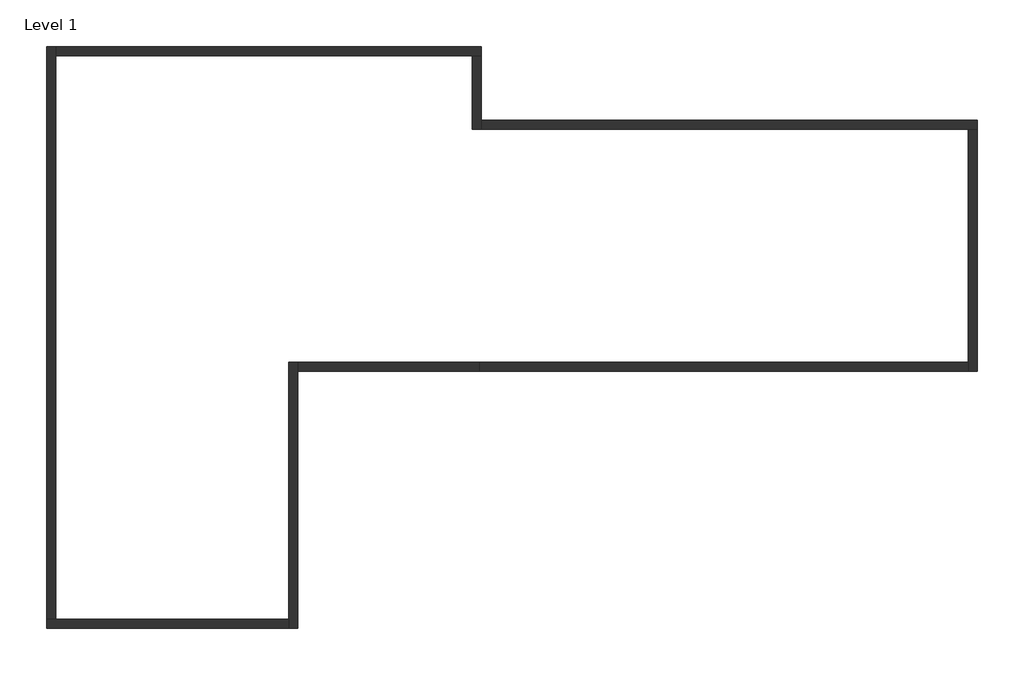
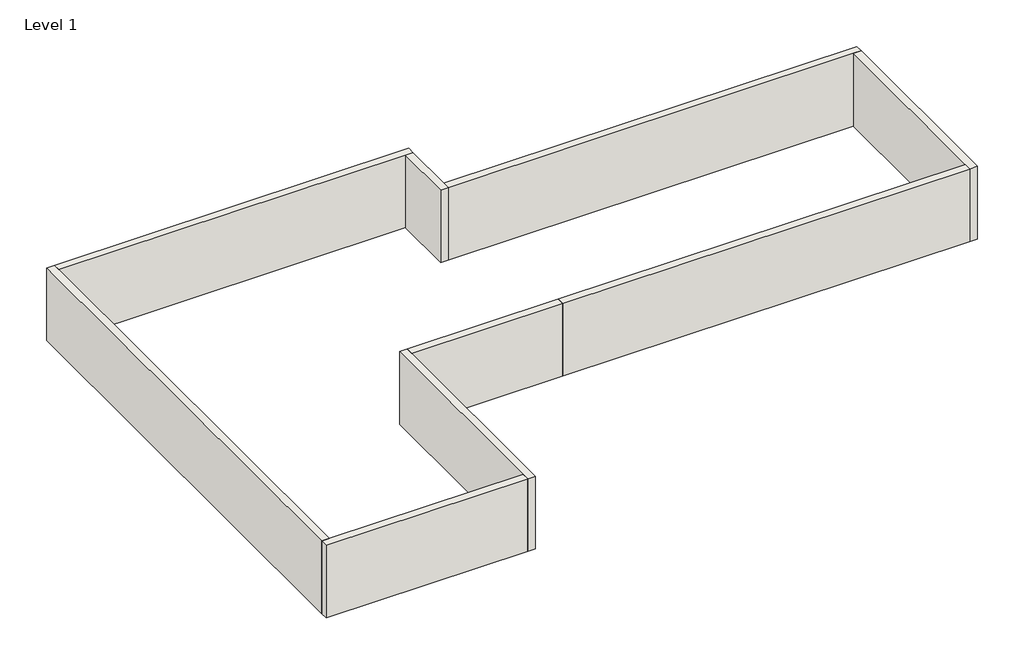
# One storey: 9 walls.
"""IFC4 building model written with IfcOpenShell, lengths in millimetres."""

import ifcopenshell
import ifcopenshell.guid

model = None  # the IFC model being written
_history = None  # IfcOwnerHistory: only IFC2X3 demands one
_inside = {}  # id of a spatial element -> (the spatial element, [elements in it])
_under = {}  # id of a project, library or spatial element -> (it, [spatial elements below it])
_declared = {}  # id of a project -> (the project, [libraries it declares])
_typed = {}  # id of a type object -> (the type object, [elements of that type])
_made_of = {}  # id of a material, layer set ... -> (it, [elements and type objects made of it])


def new_model(schema):
    """Start an empty IFC model of exactly this schema.

    Asked for "IFC4X3", IfcOpenShell would pick the latest addendum, in which some entities
    have other attributes; the version numbers below select the first issue.
    IFC2X3 requires an IfcOwnerHistory on every rooted entity: one is made here for all.
    """
    global model, _history
    if schema == "IFC4X3":
        model = ifcopenshell.file(schema_version=(4, 3, 0, 0))
    else:
        model = ifcopenshell.file(schema=schema)
    _inside.clear()
    _under.clear()
    _declared.clear()
    _typed.clear()
    _made_of.clear()
    _history = None
    if model.schema == "IFC2X3":
        org = make("IfcOrganization", Name="unknown")
        user = make(
            "IfcPersonAndOrganization",
            ThePerson=make("IfcPerson", FamilyName="unknown"),
            TheOrganization=org,
        )
        app = make(
            "IfcApplication",
            ApplicationDeveloper=org,
            Version="unknown",
            ApplicationFullName="unknown",
            ApplicationIdentifier="unknown",
        )
        _history = make(
            "IfcOwnerHistory",
            OwningUser=user,
            OwningApplication=app,
            ChangeAction="ADDED",
            CreationDate=0,
        )
    return model


def make(cls, **values):
    """One entity of the class cls with the attributes given. An attribute that is None is left unset."""
    return model.create_entity(
        cls, **{name: value for name, value in values.items() if value is not None}
    )


def rooted(cls, **values):
    """An entity with a GlobalId (a new one), such as an element, a storey or a relation."""
    return make(cls, GlobalId=ifcopenshell.guid.new(), OwnerHistory=_history, **values)


def si_unit(unit_type, name, prefix=None):
    """IfcSIUnit, for example si_unit("LENGTHUNIT", "METRE", prefix="MILLI")."""
    return make("IfcSIUnit", UnitType=unit_type, Prefix=prefix, Name=name)


def assignment(units):
    """IfcUnitAssignment: the units of a project."""
    return None if units is None else make("IfcUnitAssignment", Units=units)


def point(xyz):
    """IfcCartesianPoint."""
    return None if xyz is None else make("IfcCartesianPoint", Coordinates=xyz)


def direction(xyz):
    """IfcDirection."""
    return None if xyz is None else make("IfcDirection", DirectionRatios=xyz)


def frame(location, z_axis=None, x_axis=None):
    """IfcAxis2Placement3D, a coordinate frame: its origin and axes. An axis left out is left unset."""
    return make(
        "IfcAxis2Placement3D",
        Location=point(location),
        Axis=direction(z_axis),
        RefDirection=direction(x_axis),
    )


def origin():
    """The frame at (0, 0, 0) with its axes left unset."""
    return frame((0.0, 0.0, 0.0))


def origin_with_axes():
    """The frame at (0, 0, 0) with the z axis (0, 0, 1) and the x axis (1, 0, 0) written out."""
    return frame((0.0, 0.0, 0.0), z_axis=(0.0, 0.0, 1.0), x_axis=(1.0, 0.0, 0.0))


def place(relative_to, where):
    """IfcLocalPlacement: puts the frame where relative to a parent placement (None: the world)."""
    return make(
        "IfcLocalPlacement", PlacementRelTo=relative_to, RelativePlacement=where
    )


def context(
    kind, dimensions, precision=None, world=None, true_north=None, identifier=None
):
    """IfcGeometricRepresentationContext, for example the 3D "Model" context."""
    return make(
        "IfcGeometricRepresentationContext",
        ContextIdentifier=identifier,
        ContextType=kind,
        CoordinateSpaceDimension=dimensions,
        Precision=precision,
        WorldCoordinateSystem=world,
        TrueNorth=true_north,
    )


def project(units=None, contexts=None):
    """IfcProject with its units and contexts."""
    return rooted(
        "IfcProject",
        Name="project",
        RepresentationContexts=contexts,
        UnitsInContext=assignment(units),
    )


def spatial(cls, under=None, at=None, **own):
    """A site, building, storey or space (cls), placed at a placement, below another one or the project."""
    s = rooted(cls, ObjectPlacement=at, **own)
    if under is not None:
        _under.setdefault(under.id(), (under, []))[1].append(s)
    return s


def polyline(points):
    """IfcPolyline through the points."""
    return make("IfcPolyline", Points=[point(p) for p in points])


def outline(outer, holes=None, kind="AREA"):
    """IfcArbitraryClosedProfileDef: a profile drawn as a closed curve; with holes, ...WithVoids."""
    if holes is None:
        return make("IfcArbitraryClosedProfileDef", ProfileType=kind, OuterCurve=outer)
    return make(
        "IfcArbitraryProfileDefWithVoids",
        ProfileType=kind,
        OuterCurve=outer,
        InnerCurves=holes,
    )


def extrude(swept, where, along, depth):
    """IfcExtrudedAreaSolid: the profile swept, set in the frame where, extruded along a direction by depth."""
    return make(
        "IfcExtrudedAreaSolid",
        SweptArea=swept,
        Position=where,
        ExtrudedDirection=direction(along),
        Depth=depth,
    )


def faces_of(points, faces, orient=None, outer=None):
    """IfcFace entities. A face is a list of loops; a loop is a list of indices into points, from 0.

    orient and outer hold one flag for each loop. By default every Orientation is true, the
    first loop of a face is its IfcFaceOuterBound and the others are IfcFaceBound.
    """
    made = []
    for i, loops in enumerate(faces):
        bounds = []
        for j, loop in enumerate(loops):
            is_outer = j == 0 if outer is None else outer[i][j]
            bounds.append(
                make(
                    "IfcFaceOuterBound" if is_outer else "IfcFaceBound",
                    Bound=make("IfcPolyLoop", Polygon=[points[k] for k in loop]),
                    Orientation=True if orient is None else orient[i][j],
                )
            )
        made.append(make("IfcFace", Bounds=bounds))
    return made


def faceted_brep(points, faces, orient=None, outer=None, voids=None):
    """IfcFacetedBrep: a solid bounded by flat faces; with voids (closed shells), ...WithVoids."""
    shared = [point(p) for p in points]
    hull = make("IfcClosedShell", CfsFaces=faces_of(shared, faces, orient, outer))
    if voids is None:
        return make("IfcFacetedBrep", Outer=hull)
    return make(
        "IfcFacetedBrepWithVoids",
        Outer=hull,
        Voids=[
            make(cls, CfsFaces=faces_of(shared, fs, o, b)) for cls, fs, o, b in voids
        ],
    )


def shape(context_of_items, identifier, shape_type, items):
    """IfcShapeRepresentation: the items that make up one representation, for example the "Body"."""
    return make(
        "IfcShapeRepresentation",
        ContextOfItems=context_of_items,
        RepresentationIdentifier=identifier,
        RepresentationType=shape_type,
        Items=items,
    )


def made_of(thing, what):
    """Note that an element or type object is made of a material, layer set ...; save() writes the relation."""
    if what is not None:
        _made_of.setdefault(what.id(), (what, []))[1].append(thing)
    return thing


def element(
    cls,
    number,
    at=None,
    inside=None,
    cuts=None,
    type_object=None,
    material=None,
    context=None,
    identifier="Body",
    shape_type=None,
    held_by="IfcProductDefinitionShape",
    body=None,
    shapes=None,
    **own,
):
    """One element of the class cls, such as IfcWall. Its Tag is "e" and its number.

    at: its placement. inside: the storey or other place that contains it. cuts: it is an
    opening in that element (IfcRelVoidsElement). A single representation is given by context,
    identifier, shape_type and body (its items); several are given by shapes. held_by: the class
    of the entity that holds the representations. save() writes the other relations.
    """
    e = rooted(cls, Tag="e%d" % number, ObjectPlacement=at, **own)
    if body is not None:
        shapes = [shape(context, identifier, shape_type, body)]
    if shapes is not None:
        e.Representation = make(held_by, Representations=shapes)
    if inside is not None:
        _inside.setdefault(inside.id(), (inside, []))[1].append(e)
    if cuts is not None:
        rooted(
            "IfcRelVoidsElement", RelatingBuildingElement=cuts, RelatedOpeningElement=e
        )
    if type_object is not None:
        _typed.setdefault(type_object.id(), (type_object, []))[1].append(e)
    return made_of(e, material)


def aggregate(whole, parts):
    """IfcRelAggregates: a whole, such as a stair, and the parts it consists of."""
    return rooted("IfcRelAggregates", RelatingObject=whole, RelatedObjects=parts)


def save(model, path):
    """Write the relations noted so far, then the file.

    IfcRelAggregates (storeys below a building ...), IfcRelContainedInSpatialStructure (elements
    in a storey), IfcRelDefinesByType, IfcRelAssociatesMaterial and IfcRelDeclares: one each for
    every whole, place, type object, material and project.
    """
    for whole, parts in _under.values():
        aggregate(whole, parts)
    for where, things in _inside.values():
        rooted(
            "IfcRelContainedInSpatialStructure",
            RelatedElements=things,
            RelatingStructure=where,
        )
    for kind, things in _typed.values():
        rooted("IfcRelDefinesByType", RelatedObjects=things, RelatingType=kind)
    for what, things in _made_of.values():
        rooted("IfcRelAssociatesMaterial", RelatedObjects=things, RelatingMaterial=what)
    for by, libraries in _declared.values():
        rooted("IfcRelDeclares", RelatingContext=by, RelatedDefinitions=libraries)
    model.write(path)


model = new_model("IFC4")

# Units and contexts
model_context = context("Model", 3, world=origin())
ifc_project = project(units=[si_unit("LENGTHUNIT", "METRE", prefix="MILLI")], contexts=[model_context])

# Site, building, storey
site = spatial("IfcSite", under=ifc_project)
building = spatial("IfcBuilding", under=site)
storey = spatial("IfcBuildingStorey", under=building, Name="Level 1", Elevation=0.0)

# Walls
placement = place(None, origin())
element("IfcWall", 1, ObjectType="Generic - 12\"", at=placement, inside=storey, context=model_context, shape_type="Brep", body=[
    faceted_brep([(-5804.9516552, 351.6105424, 0.0), (-5804.9516552, -8182.7894576, 0.0), (-5804.9516552, -8487.5894576, 0.0), (-5804.9516552, -8487.5894576, 3060.0), (-5804.9516552, -8182.7894576, 3060.0), (-5804.9516552, 351.6105424, 3060.0), (-5500.1516552, 351.6105424, 0.0), (-5500.1516552, 351.6105424, 3060.0), (-5500.1516552, 46.8105424, 3060.0), (-5500.1516552, -8487.5894576, 3060.0), (-5500.1516552, -8487.5894576, 0.0), (-5500.1516552, 46.8105424, 0.0)], [[[0, 1, 2, 3, 4, 5]], [[6, 7, 8, 9, 10, 11]], [[2, 1, 0, 6, 11, 10]], [[5, 4, 3, 9, 8, 7]], [[3, 2, 10, 9]], [[0, 5, 7, 6]]]),
])
element("IfcWall", 2, ObjectType="Generic - 12\"", at=placement, inside=storey, context=model_context, shape_type="Brep", body=[
    faceted_brep([(-5804.9516552, -8182.7894576, 0.0), (-13532.9016552, -8182.7894576, 0.0), (-13837.7016552, -8182.7894576, 0.0), (-13837.7016552, -8182.7894576, 3060.0), (-13532.9016552, -8182.7894576, 3060.0), (-5804.9516552, -8182.7894576, 3060.0), (-5804.9516552, -8487.5894576, 0.0), (-5804.9516552, -8487.5894576, 3060.0), (-13837.7016552, -8487.5894576, 3060.0), (-13837.7016552, -8487.5894576, 0.0)], [[[0, 1, 2, 3, 4, 5]], [[6, 7, 8, 9]], [[2, 1, 0, 6, 9]], [[5, 4, 3, 8, 7]], [[3, 2, 9, 8]], [[0, 5, 7, 6]]]),
])
element("IfcWall", 3, ObjectType="Generic - 12\"", at=placement, inside=storey, context=model_context, shape_type="Brep", body=[
    faceted_brep([(-13532.9016552, -8182.7894576, 0.0), (-13532.9016552, 10517.9605424, 0.0), (-13532.9016552, 10822.7605424, 0.0), (-13532.9016552, 10822.7605424, 3060.0), (-13532.9016552, 10517.9605424, 3060.0), (-13532.9016552, -8182.7894576, 3060.0), (-13837.7016552, -8182.7894576, 0.0), (-13837.7016552, -8182.7894576, 3060.0), (-13837.7016552, 10822.7605424, 3060.0), (-13837.7016552, 10822.7605424, 0.0)], [[[0, 1, 2, 3, 4, 5]], [[6, 7, 8, 9]], [[2, 1, 0, 6, 9]], [[5, 4, 3, 8, 7]], [[3, 2, 9, 8]], [[0, 5, 7, 6]]]),
])
element("IfcWall", 4, ObjectType="Generic - 12\"", at=placement, inside=storey, context=model_context, shape_type="Brep", body=[
    faceted_brep([(-13532.9016552, 10517.9605424, 0.0), (291.0483448, 10517.9605424, 0.0), (595.8483448, 10517.9605424, 0.0), (595.8483448, 10517.9605424, 3060.0), (291.0483448, 10517.9605424, 3060.0), (-13532.9016552, 10517.9605424, 3060.0), (-13532.9016552, 10822.7605424, 0.0), (-13532.9016552, 10822.7605424, 3060.0), (595.8483448, 10822.7605424, 3060.0), (595.8483448, 10822.7605424, 0.0)], [[[0, 1, 2, 3, 4, 5]], [[6, 7, 8, 9]], [[2, 1, 0, 6, 9]], [[5, 4, 3, 8, 7]], [[3, 2, 9, 8]], [[0, 5, 7, 6]]]),
])
element("IfcWall", 5, ObjectType="Generic - 12\"", at=placement, inside=storey, context=model_context, shape_type="Brep", body=[
    faceted_brep([(291.0483448, 10517.9605424, 0.0), (291.0483448, 8079.5605424, 0.0), (291.0483448, 8079.5605424, 3060.0), (291.0483448, 10517.9605424, 3060.0), (595.8483448, 10517.9605424, 0.0), (595.8483448, 10517.9605424, 3060.0), (595.8483448, 8384.3605424, 3060.0), (595.8483448, 8079.5605424, 3060.0), (595.8483448, 8079.5605424, 0.0), (595.8483448, 8384.3605424, 0.0)], [[[0, 1, 2, 3]], [[4, 5, 6, 7, 8, 9]], [[1, 0, 4, 9, 8]], [[3, 2, 7, 6, 5]], [[2, 1, 8, 7]], [[0, 3, 5, 4]]]),
])
element("IfcWall", 6, ObjectType="Generic - 12\"", at=placement, inside=storey, context=model_context, shape_type="Brep", body=[
    faceted_brep([(595.8483448, 8079.5605424, 0.0), (16750.2483448, 8079.5605424, 0.0), (17055.0483448, 8079.5605424, 0.0), (17055.0483448, 8079.5605424, 3060.0), (16750.2483448, 8079.5605424, 3060.0), (595.8483448, 8079.5605424, 3060.0), (595.8483448, 8384.3605424, 0.0), (595.8483448, 8384.3605424, 3060.0), (17055.0483448, 8384.3605424, 3060.0), (17055.0483448, 8384.3605424, 0.0)], [[[0, 1, 2, 3, 4, 5]], [[6, 7, 8, 9]], [[2, 1, 0, 6, 9]], [[5, 4, 3, 8, 7]], [[3, 2, 9, 8]], [[0, 5, 7, 6]]]),
])
element("IfcWall", 7, ObjectType="Generic - 12\"", at=placement, inside=storey, context=model_context, shape_type="Brep", body=[
    faceted_brep([(16750.2483448, 8079.5605424, 0.0), (16750.2483448, 351.6105424, 0.0), (16750.2483448, 46.8105424, 0.0), (16750.2483448, 46.8105424, 3060.0), (16750.2483448, 351.6105424, 3060.0), (16750.2483448, 8079.5605424, 3060.0), (17055.0483448, 8079.5605424, 0.0), (17055.0483448, 8079.5605424, 3060.0), (17055.0483448, 46.8105424, 3060.0), (17055.0483448, 46.8105424, 0.0)], [[[0, 1, 2, 3, 4, 5]], [[6, 7, 8, 9]], [[2, 1, 0, 6, 9]], [[5, 4, 3, 8, 7]], [[3, 2, 9, 8]], [[0, 5, 7, 6]]]),
])
element("IfcWall", 8, ObjectType="Generic - 12\"", at=placement, inside=storey, context=model_context, shape_type="SweptSolid", body=[
    extrude(outline(polyline([(518.0608448, 351.6105424), (16750.2483448, 351.6105424), (16750.2483448, 46.8105424), (518.0608448, 46.8105424), (518.0608448, 351.6105424)])), origin_with_axes(), (0.0, 0.0, 1.0), 3060.0),
])
element("IfcWall", 9, ObjectType="Generic - 12\"", at=placement, inside=storey, context=model_context, shape_type="SweptSolid", body=[
    extrude(outline(polyline([(-5500.1516552, 351.6105424), (518.0608448, 351.6105424), (518.0608448, 46.8105424), (-5500.1516552, 46.8105424), (-5500.1516552, 351.6105424)])), origin_with_axes(), (0.0, 0.0, 1.0), 3060.0),
])

save(model, "model.ifc")
